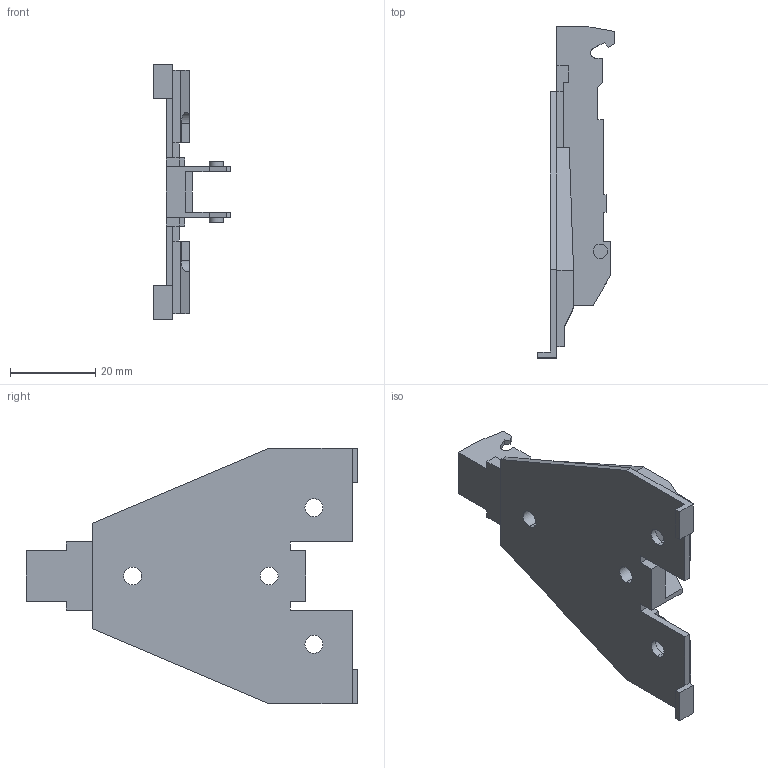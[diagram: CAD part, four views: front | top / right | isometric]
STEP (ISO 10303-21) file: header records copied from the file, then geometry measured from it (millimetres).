
FILE_DESCRIPTION (( 'STEP AP214' ), '1' );
FILE_NAME ('1D Deltamontageplatte Spax_H4,5.step', '2010-11-18T09:42:08', ( 'grass' ), ( '' ), 'SwSTEP 2.0', 'SolidWorks 2010', '' );
FILE_SCHEMA (( 'AUTOMOTIVE_DESIGN' ));
Length unit declared in the file: millimetre
Products named in the file (1): 1D Deltamontageplatte Spax_H4,5
Bounding box: 18 x 77.75 x 60 mm (x, y, z)
Volume: 12522.1 mm3; surface area: 9734.8 mm2
Topology: 1 solids, 1 shells, 127 faces, 367 edges, 244 vertices
Faces by surface type: plane 108, cylinder 19
Entity records: 4172 total; most frequent: CARTESIAN_POINT 748, ORIENTED_EDGE 734, DIRECTION 657, EDGE_CURVE 367, LINE 327, VECTOR 327, VERTEX_POINT 244, AXIS2_PLACEMENT_3D 165
